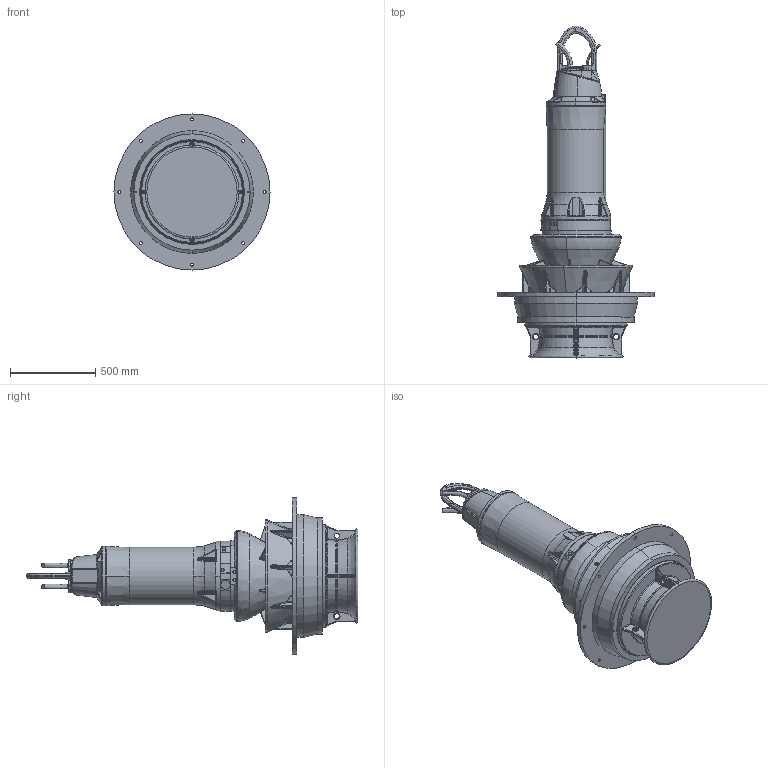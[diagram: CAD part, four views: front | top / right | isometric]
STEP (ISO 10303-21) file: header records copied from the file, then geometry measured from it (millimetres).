
FILE_DESCRIPTION (( 'STEP AP214' ), '1' );
FILE_NAME ('PE4_VUPX0501-2_FU_B_NG2.STEP', '2017-04-05T09:15:43', ( '' ), ( '' ), 'SwSTEP 2.0', 'SolidWorks 2017', '' );
FILE_SCHEMA (( 'AUTOMOTIVE_DESIGN' ));
Length unit declared in the file: millimetre
Products named in the file (1): PE4_VUPX0501-2_FU_B_NG2
Bounding box: 913 x 1941.89 x 913 mm (x, y, z)
Volume: 255360064.9 mm3; surface area: 5015184.7 mm2
Topology: 10 solids, 10 shells, 1681 faces, 4026 edges, 2357 vertices
Faces by surface type: bspline 634, cylinder 420, plane 277, torus 194, cone 116, sphere 40
Entity records: 471639 total; most frequent: CARTESIAN_POINT 419112, ORIENTED_EDGE 7956, DIRECTION 6063, EDGE_CURVE 3978, AXIS2_PLACEMENT_3D 2600, VERTEX_POINT 2357, EDGE_LOOP 1755, UNCERTAINTY_MEASURE_WITH_UNIT 1687
